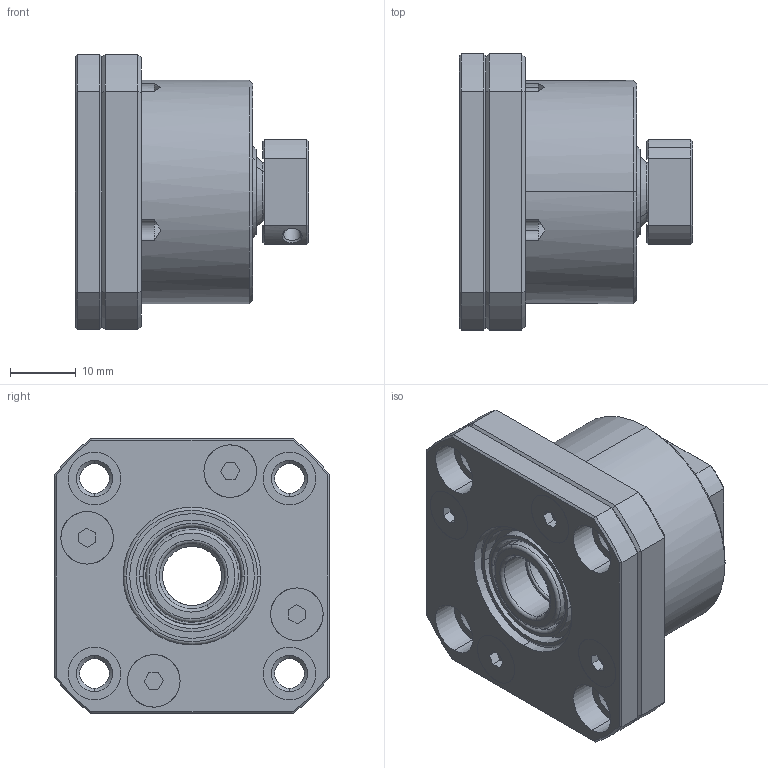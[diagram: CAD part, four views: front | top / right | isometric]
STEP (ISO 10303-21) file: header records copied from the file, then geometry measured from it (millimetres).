
FILE_DESCRIPTION (( 'STEP AP203' ), '1' );
FILE_NAME ('FK10²Õ¦XB.STEP', '2021-09-29T01:28:07', ( '' ), ( '' ), 'SwSTEP 2.0', 'SolidWorks 2018', '' );
FILE_SCHEMA (( 'CONFIG_CONTROL_DESIGN' ));
Length unit declared in the file: millimetre
Products named in the file (1): FK10組合B
Bounding box: 35.5 x 42 x 42 mm (x, y, z)
Surface area: 12760.2 mm2 (no closed solid volume)
Topology: 0 solids, 18 shells, 231 faces, 621 edges, 409 vertices
Faces by surface type: plane 84, cylinder 71, cone 54, torus 18, bspline 4
Entity records: 7901 total; most frequent: CARTESIAN_POINT 1967, DIRECTION 1290, ORIENTED_EDGE 1105, EDGE_CURVE 621, AXIS2_PLACEMENT_3D 526, VERTEX_POINT 409, CIRCLE 298, EDGE_LOOP 282
